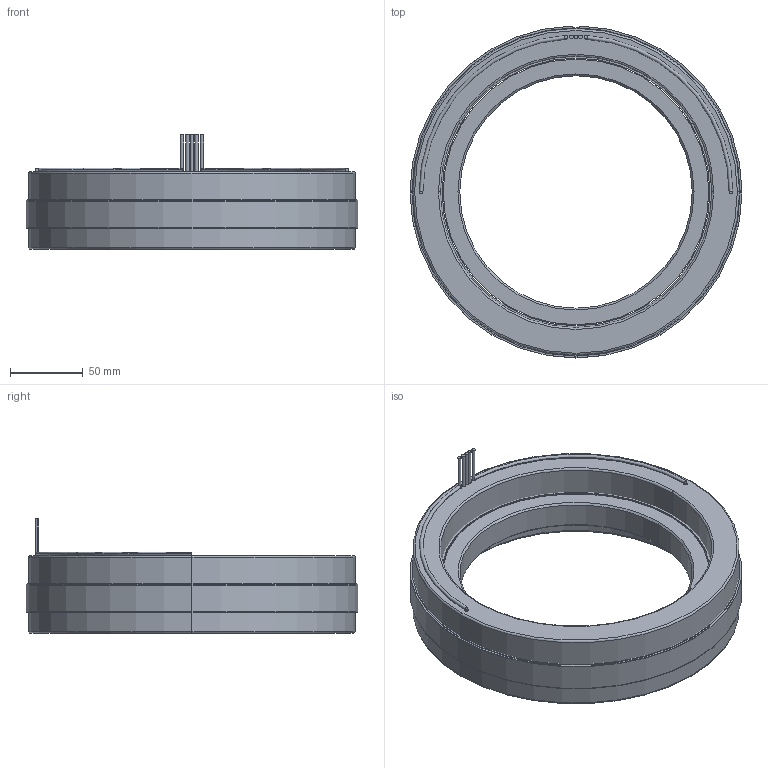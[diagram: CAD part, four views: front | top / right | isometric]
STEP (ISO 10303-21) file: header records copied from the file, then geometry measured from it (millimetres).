
FILE_DESCRIPTION (( 'STEP AP214' ), '1' );
FILE_NAME ('6100346-01.STEP', '2019-10-23T23:34:11', ( '' ), ( '' ), 'SwSTEP 2.0', 'SolidWorks 2016', '' );
FILE_SCHEMA (( 'AUTOMOTIVE_DESIGN' ));
Length unit declared in the file: millimetre
Products named in the file (10): 4450183-XX_4450183-01; 6100346-01; COMP4500545-XX(COIL)_COMP4500545-01(COIL); 4150170-XX_4150170-01; 4400076-00; 4600525-00; 4500545-XX_4500545-01; 4250365-XX_4250365-01
Assembly tree (10 placements, depth 4):
  6100346-01
    4500545-XX_4500545-01
      COMP4500545-XX(COIL)_COMP4500545-01(COIL)
      4450183-XX_4450183-01
        4450183-XX_4450183-01
        4400076-00
        4400076-00
        4600525-00  x2
    4250365-XX_4250365-01
      4150170-XX_4150170-01
Bounding box: 228.6 x 228.58 x 78.74 mm (x, y, z)
Volume: 1057090.9 mm3; surface area: 293760.9 mm2
Topology: 14 solids, 14 shells, 98 faces, 192 edges, 124 vertices
Faces by surface type: cylinder 52, plane 30, torus 12, cone 4
Entity records: 2875 total; most frequent: DIRECTION 524, CARTESIAN_POINT 404, ORIENTED_EDGE 360, AXIS2_PLACEMENT_3D 236, EDGE_CURVE 180, CIRCLE 128, VERTEX_POINT 116, EDGE_LOOP 106
